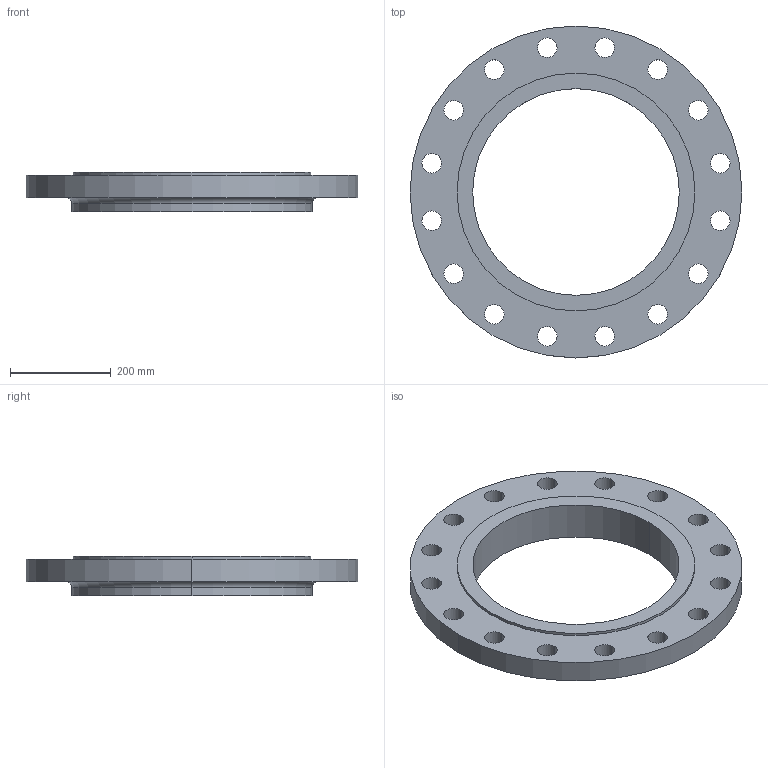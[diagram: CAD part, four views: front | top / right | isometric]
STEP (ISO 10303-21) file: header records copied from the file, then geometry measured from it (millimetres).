
FILE_DESCRIPTION (( 'STEP AP214' ), '1' );
FILE_NAME ('PN40 DN400 Type 12 - Type E Face.STEP', '2019-01-05T23:17:24', ( '' ), ( '' ), 'SwSTEP 2.0', 'SolidWorks 2019', '' );
FILE_SCHEMA (( 'AUTOMOTIVE_DESIGN' ));
Length unit declared in the file: millimetre
Products named in the file (1): PN40 DN400 Type 12 - Type E Face
Bounding box: 660 x 660 x 78 mm (x, y, z)
Volume: 10063479.5 mm3; surface area: 703438.7 mm2
Topology: 1 solids, 1 shells, 46 faces, 124 edges, 82 vertices
Faces by surface type: cylinder 40, plane 4, torus 2
Entity records: 1598 total; most frequent: DIRECTION 302, CARTESIAN_POINT 253, ORIENTED_EDGE 248, AXIS2_PLACEMENT_3D 131, EDGE_CURVE 124, CIRCLE 84, VERTEX_POINT 82, EDGE_LOOP 82
